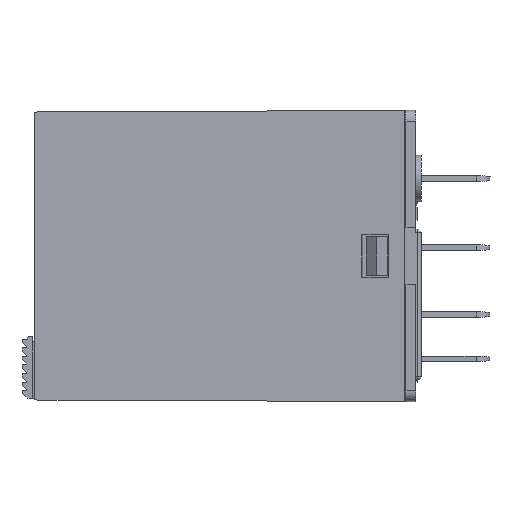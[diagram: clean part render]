
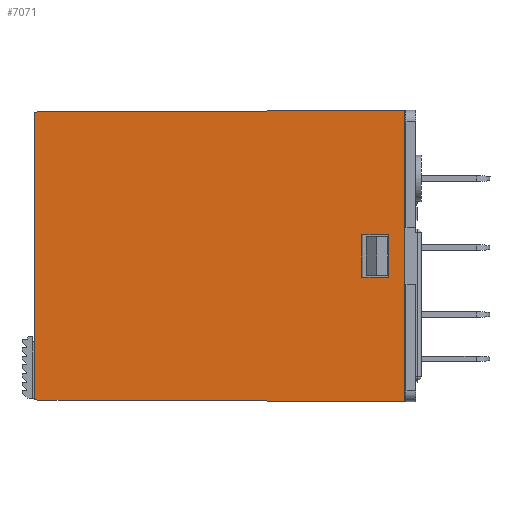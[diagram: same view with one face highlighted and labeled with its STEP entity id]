
A CAD part, left-side view. The second image highlights one B-rep face of the part: STEP entity #7071.
In plain terms, the highlighted planar face has unit normal (-1, 0.004, 0).
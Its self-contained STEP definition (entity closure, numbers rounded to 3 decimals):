
#57 = EDGE_CURVE ( 'NONE', #12623, #14340, #18258, .T. ) ;
#82 = CARTESIAN_POINT ( 'NONE',  ( -10.5, -13.021, 17.92 ) ) ;
#90 = VECTOR ( 'NONE', #6461, 1000. ) ;
#130 = CARTESIAN_POINT ( 'NONE',  ( -10.493, -11.613, -9.08 ) ) ;
#873 = CARTESIAN_POINT ( 'NONE',  ( -10.483, -9.113, 2.47 ) ) ;
#1242 = FACE_OUTER_BOUND ( 'NONE', #13336, .T. ) ;
#1412 = EDGE_CURVE ( 'NONE', #2355, #5766, #11368, .T. ) ;
#1801 = DIRECTION ( 'NONE',  ( -0.004, -1., 0. ) ) ;
#1960 = CARTESIAN_POINT ( 'NONE',  ( -10.5, -13.113, -9.08 ) ) ;
#2309 = DIRECTION ( 'NONE',  ( -0.004, -1., 0.004 ) ) ;
#2355 = VERTEX_POINT ( 'NONE', #10311 ) ;
#2446 = DIRECTION ( 'NONE',  ( 0., 0., -1. ) ) ;
#2648 = LINE ( 'NONE', #27942, #7809 ) ;
#2724 = AXIS2_PLACEMENT_3D ( 'NONE', #1960, #6378, #21600 ) ;
#3282 = ORIENTED_EDGE ( 'NONE', *, *, #19805, .T. ) ;
#4998 = EDGE_CURVE ( 'NONE', #23822, #11945, #7181, .T. ) ;
#5277 = DIRECTION ( 'NONE',  ( 0., 0., 1. ) ) ;
#5515 = LINE ( 'NONE', #5803, #28017 ) ;
#5766 = VERTEX_POINT ( 'NONE', #17011 ) ;
#5803 = CARTESIAN_POINT ( 'NONE',  ( -10.5, -13.113, 2.47 ) ) ;
#5958 = DIRECTION ( 'NONE',  ( 0., 0., 1. ) ) ;
#6312 = ORIENTED_EDGE ( 'NONE', *, *, #26373, .F. ) ;
#6377 = FACE_BOUND ( 'NONE', #18342, .T. ) ;
#6378 = DIRECTION ( 'NONE',  ( -1., 0.004, 0. ) ) ;
#6461 = DIRECTION ( 'NONE',  ( 0., 0., 1. ) ) ;
#6993 = VECTOR ( 'NONE', #2309, 1000. ) ;
#7071 = ADVANCED_FACE ( 'NONE', ( #1242, #6377 ), #28106, .T. ) ;
#7181 = LINE ( 'NONE', #10886, #23166 ) ;
#7809 = VECTOR ( 'NONE', #1801, 1000. ) ;
#9040 = LINE ( 'NONE', #82, #6993 ) ;
#9412 = CARTESIAN_POINT ( 'NONE',  ( -10.483, -9.113, 2.47 ) ) ;
#9452 = LINE ( 'NONE', #10315, #26846 ) ;
#9713 = ORIENTED_EDGE ( 'NONE', *, *, #57, .T. ) ;
#10311 = CARTESIAN_POINT ( 'NONE',  ( -10.493, -11.613, 6.37 ) ) ;
#10315 = CARTESIAN_POINT ( 'NONE',  ( -10.5, -13.113, -9.08 ) ) ;
#10886 = CARTESIAN_POINT ( 'NONE',  ( -10.5, -13.113, -9.08 ) ) ;
#11368 = LINE ( 'NONE', #130, #28108 ) ;
#11699 = LINE ( 'NONE', #17284, #90 ) ;
#11945 = VERTEX_POINT ( 'NONE', #20004 ) ;
#12195 = ORIENTED_EDGE ( 'NONE', *, *, #19137, .T. ) ;
#12623 = VERTEX_POINT ( 'NONE', #9412 ) ;
#13182 = CARTESIAN_POINT ( 'NONE',  ( -10.483, -9.113, 6.37 ) ) ;
#13336 = EDGE_LOOP ( 'NONE', ( #17017, #6312, #23539, #3282 ) ) ;
#13398 = EDGE_CURVE ( 'NONE', #17387, #19051, #9040, .T. ) ;
#14340 = VERTEX_POINT ( 'NONE', #13182 ) ;
#15329 = CARTESIAN_POINT ( 'NONE',  ( -10.35, 21.187, -8.93 ) ) ;
#16035 = EDGE_CURVE ( 'NONE', #5766, #12623, #5515, .T. ) ;
#17011 = CARTESIAN_POINT ( 'NONE',  ( -10.493, -11.613, 2.47 ) ) ;
#17017 = ORIENTED_EDGE ( 'NONE', *, *, #13398, .F. ) ;
#17284 = CARTESIAN_POINT ( 'NONE',  ( -10.35, 21.187, -8.931 ) ) ;
#17387 = VERTEX_POINT ( 'NONE', #20303 ) ;
#18258 = LINE ( 'NONE', #873, #24068 ) ;
#18342 = EDGE_LOOP ( 'NONE', ( #22091, #9713, #12195, #19696 ) ) ;
#19051 = VERTEX_POINT ( 'NONE', #27385 ) ;
#19137 = EDGE_CURVE ( 'NONE', #14340, #2355, #2648, .T. ) ;
#19696 = ORIENTED_EDGE ( 'NONE', *, *, #1412, .T. ) ;
#19805 = EDGE_CURVE ( 'NONE', #11945, #19051, #9452, .T. ) ;
#20004 = CARTESIAN_POINT ( 'NONE',  ( -10.5, -13.113, -9.08 ) ) ;
#20303 = CARTESIAN_POINT ( 'NONE',  ( -10.35, 21.187, 17.77 ) ) ;
#21600 = DIRECTION ( 'NONE',  ( 0., 0., 1. ) ) ;
#22091 = ORIENTED_EDGE ( 'NONE', *, *, #16035, .T. ) ;
#23166 = VECTOR ( 'NONE', #26139, 1000. ) ;
#23539 = ORIENTED_EDGE ( 'NONE', *, *, #4998, .T. ) ;
#23822 = VERTEX_POINT ( 'NONE', #15329 ) ;
#24068 = VECTOR ( 'NONE', #5277, 1000. ) ;
#26139 = DIRECTION ( 'NONE',  ( -0.004, -1., -0.004 ) ) ;
#26373 = EDGE_CURVE ( 'NONE', #23822, #17387, #11699, .T. ) ;
#26846 = VECTOR ( 'NONE', #5958, 1000. ) ;
#27385 = CARTESIAN_POINT ( 'NONE',  ( -10.5, -13.113, 17.92 ) ) ;
#27620 = DIRECTION ( 'NONE',  ( 0.004, 1., 0. ) ) ;
#27942 = CARTESIAN_POINT ( 'NONE',  ( -10.5, -13.113, 6.37 ) ) ;
#28017 = VECTOR ( 'NONE', #27620, 1000. ) ;
#28106 = PLANE ( 'NONE',  #2724 ) ;
#28108 = VECTOR ( 'NONE', #2446, 1000. ) ;
